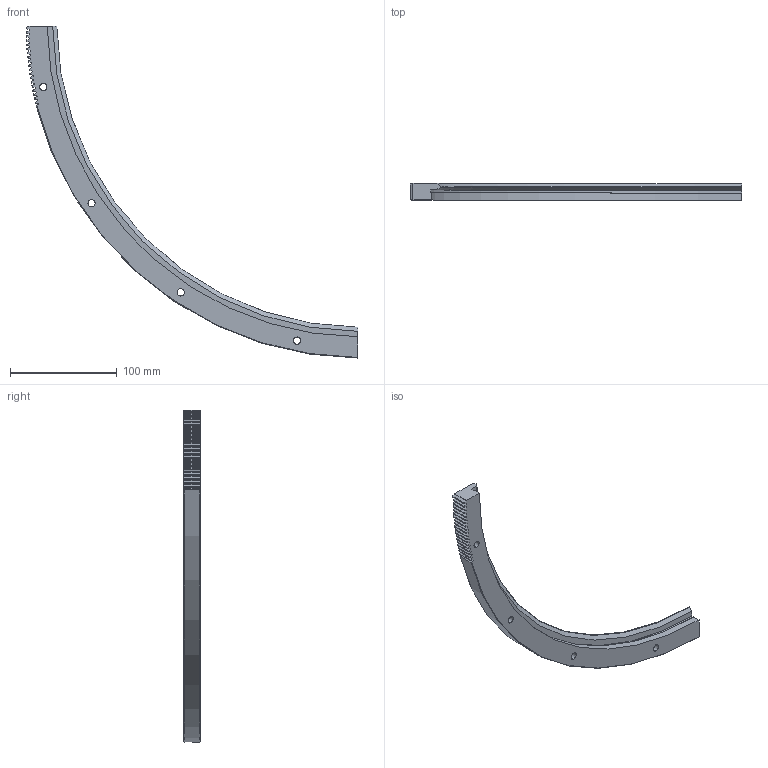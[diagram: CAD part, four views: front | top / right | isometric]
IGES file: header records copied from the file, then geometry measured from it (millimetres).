
Start section: 3D InterOp IGES (v. 2020 1.0.1), Spatial Corp. Copyright (c) 1999-2017.
Global section: file name: rim_627_r90_p.igs; native system: Spatial Corp.; preprocessor: 3D InterOp ACIS/IGES; author: TraceParts; organization: TraceParts S.A.; date: 20220624.063134; units: millimetre
Bounding box: 311.73 x 15.5 x 311.74 mm (x, y, z)
Surface area: 43174.2 mm2 (no closed solid volume)
Topology: 0 solids, 0 shells, 169 faces, 978 edges, 978 vertices
Faces by surface type: extrusion 106, revolution 63
